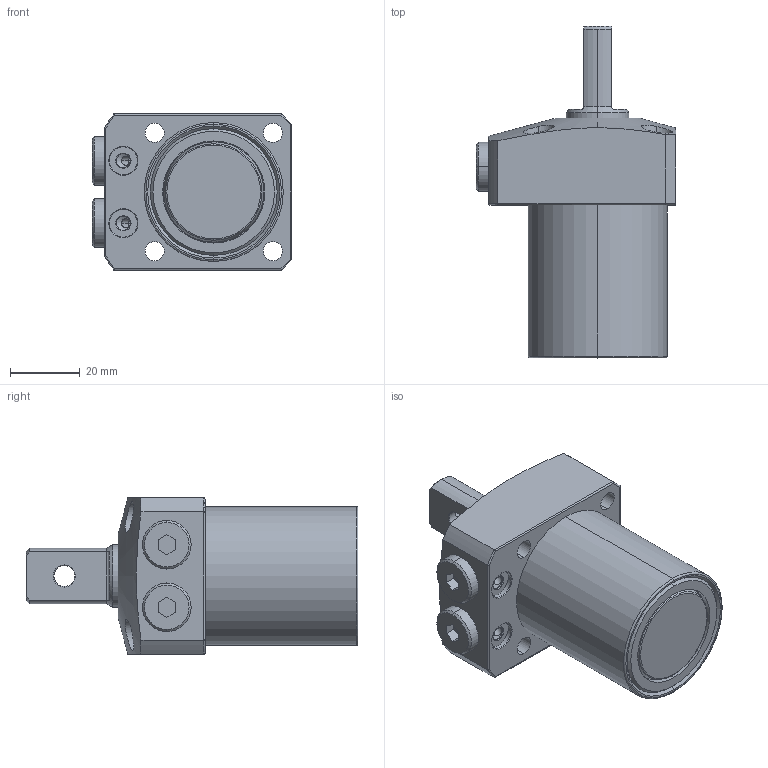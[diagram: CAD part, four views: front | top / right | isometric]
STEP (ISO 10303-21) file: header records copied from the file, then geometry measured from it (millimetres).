
FILE_DESCRIPTION (( 'STEP AP203' ), '1' );
FILE_NAME ('20300-CL-P.step', '2019-06-24T03:08:44', ( '微软用户' ), ( '微软中国' ), 'SwSTEP 2.0', 'SolidWorks 2014', '' );
FILE_SCHEMA (( 'CONFIG_CONTROL_DESIGN' ));
Length unit declared in the file: millimetre
Products named in the file (5): 20300-C-P-1^20300-CL-P; 20300-C-P-2^20300-CL-P; 20300-C-P-3^20300-CL-P; 20300-C-P-4^20300-CL-P; 20300-CL-P
Assembly tree (5 placements, depth 2):
  20300-CL-P
    20300-C-P-1^20300-CL-P
    20300-C-P-2^20300-CL-P
    20300-C-P-3^20300-CL-P
    20300-C-P-4^20300-CL-P  x2
Bounding box: 57.5 x 95.5 x 45 mm (x, y, z)
Volume: 114191.7 mm3; surface area: 22900.6 mm2
Topology: 5 solids, 5 shells, 169 faces, 393 edges, 247 vertices
Faces by surface type: cylinder 67, plane 51, cone 39, torus 12
Entity records: 5609 total; most frequent: CARTESIAN_POINT 1440, DIRECTION 798, ORIENTED_EDGE 730, EDGE_CURVE 365, AXIS2_PLACEMENT_3D 331, VERTEX_POINT 229, EDGE_LOOP 184, CIRCLE 167
